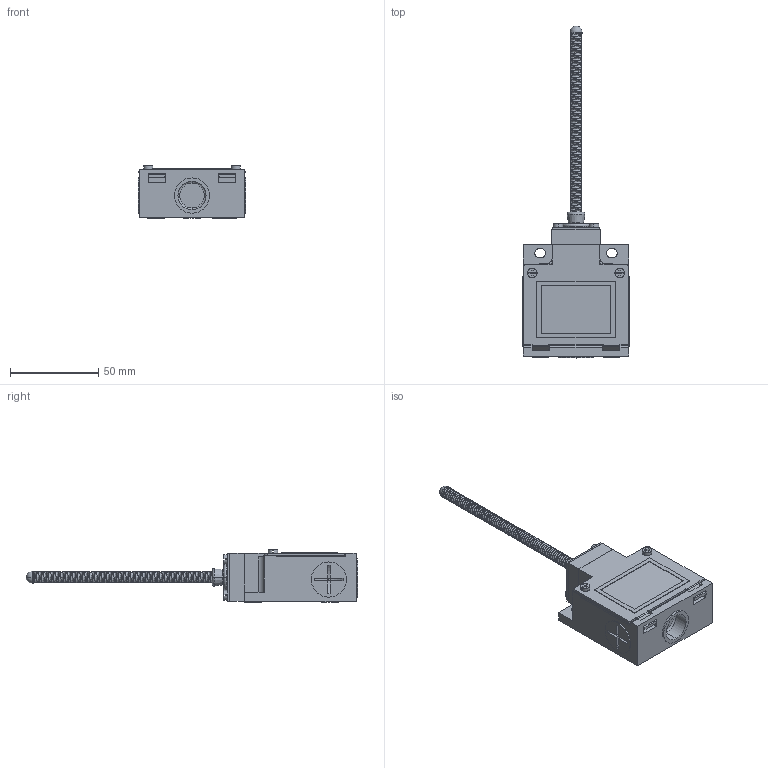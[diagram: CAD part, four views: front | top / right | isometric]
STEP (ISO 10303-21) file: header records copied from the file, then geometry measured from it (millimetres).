
FILE_DESCRIPTION (( 'STEP AP203' ), '1' );
FILE_NAME ('TZE08.STEP', '2018-02-07T13:40:36', ( '' ), ( '' ), 'SwSTEP 2.0', 'SolidWorks 2012', '' );
FILE_SCHEMA (( 'CONFIG_CONTROL_DESIGN' ));
Length unit declared in the file: millimetre
Products named in the file (1): TZE08
Bounding box: 61 x 188.55 x 30 mm (x, y, z)
Volume: 104498.5 mm3; surface area: 23387.6 mm2
Topology: 1 solids, 1 shells, 302 faces, 771 edges, 491 vertices
Faces by surface type: plane 219, cylinder 65, torus 10, cone 4, sphere 2, bspline 2
Entity records: 23550 total; most frequent: CARTESIAN_POINT 16139, ORIENTED_EDGE 1534, DIRECTION 1511, EDGE_CURVE 767, LINE 549, VECTOR 549, VERTEX_POINT 489, AXIS2_PLACEMENT_3D 481
